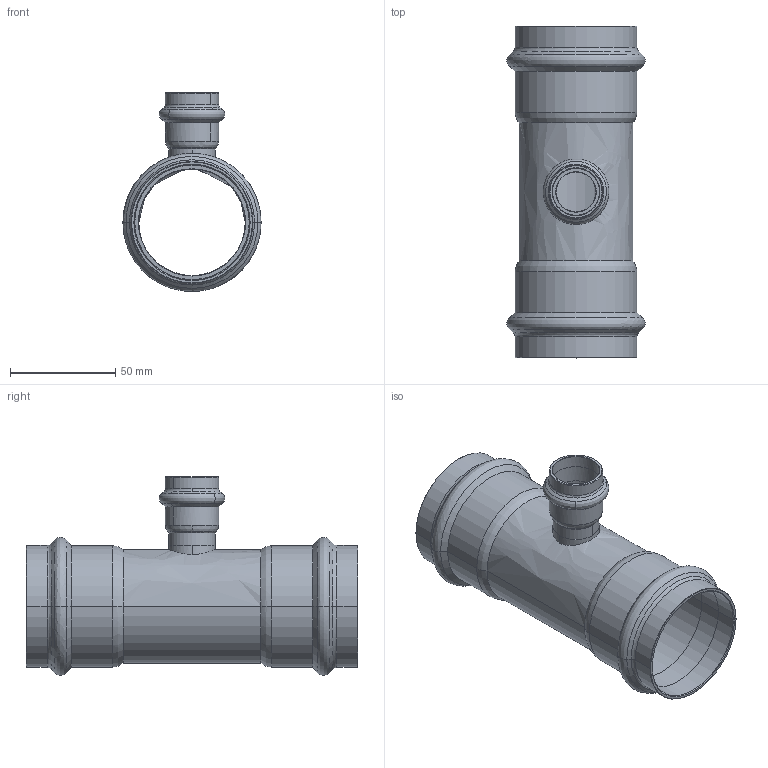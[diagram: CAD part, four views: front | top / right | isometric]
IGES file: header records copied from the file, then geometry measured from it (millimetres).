
Start section: Elysium IGES Interface
Global section: file name: C:\Users\Wallenburg\Desktop\3d modellen sudo\S-Pr VP\SP6130RV\6130RVW542254.igs; native system: CoCreate Modeling 17.00A  17-Jun-2010; preprocessor: CoCreate IGES_3D V2.2; author: Unknown; organization: Unknown; date: 20130117.151003; units: millimetre
Bounding box: 65.68 x 157.73 x 94.54 mm (x, y, z)
Volume: 61573.4 mm3; surface area: 62508.5 mm2
Topology: 1 solids, 1 shells, 128 faces, 282 edges, 164 vertices
Faces by surface type: bspline 128
